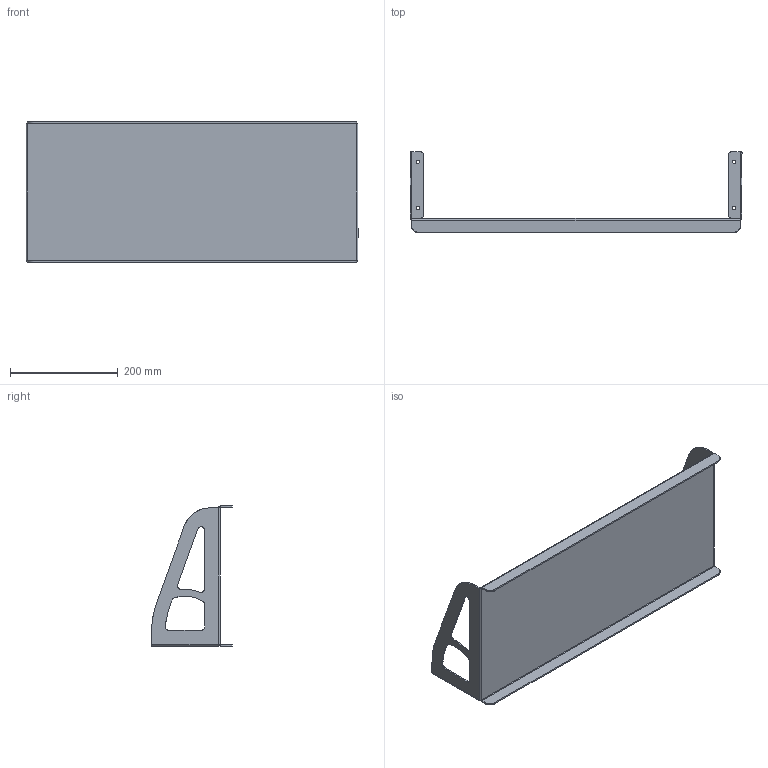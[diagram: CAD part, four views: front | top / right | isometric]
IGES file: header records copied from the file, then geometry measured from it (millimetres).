
Start section: SolidWorks IGES file using analytic representation for surfaces
Global section: file name: C:\Users\Theroot\Desktop\Recent Backup\GueriTech Upper Bracket Shelf\Share\GueriTech_Upper_Bracket_Shelf.IGS; native system: SolidWorks 2020; preprocessor: SolidWorks 2020; author: Theroot; date: 231116.091700; units: inch
Bounding box: 614.91 x 149.74 x 259.31 mm (x, y, z)
Surface area: 455939.5 mm2 (no closed solid volume)
Topology: 0 solids, 0 shells, 114 faces, 1338 edges, 1338 vertices
Faces by surface type: bspline 58, revolution 56
